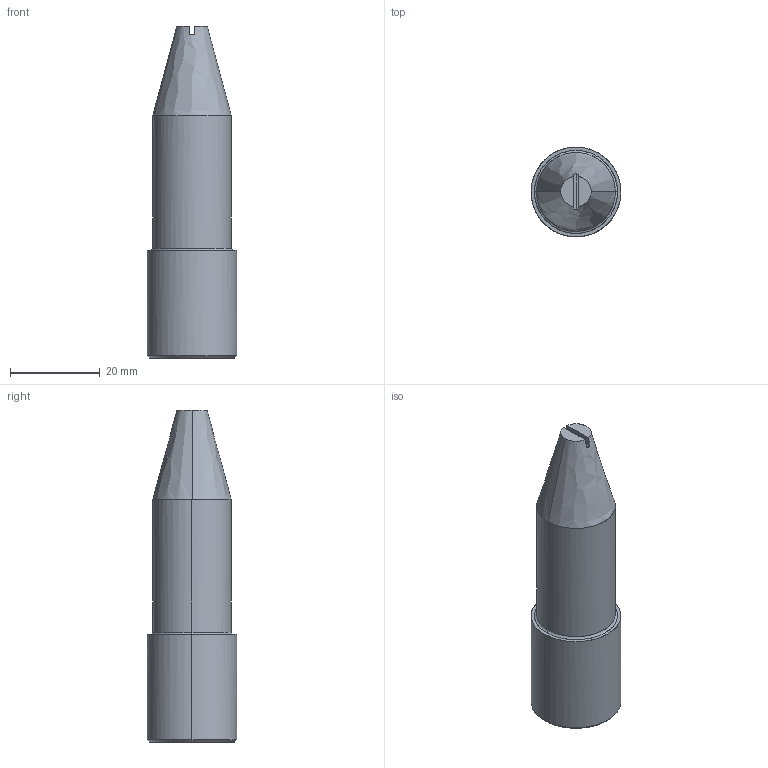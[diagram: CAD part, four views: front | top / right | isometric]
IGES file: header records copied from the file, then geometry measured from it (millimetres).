
Global section: file name: E:\UnigraphicsGraphicData\MISUMI_PRESS-PARTS\IGES\3d_sdsth20-p17.50-b30_02971_r00.igs; native system: NX V5.0; preprocessor: UGS NX IGES V5.0; author: MISUMI; date: 20110105.162518; units: millimetre
Bounding box: 20 x 20 x 74 mm (x, y, z)
Surface area: 4995.9 mm2 (no closed solid volume)
Topology: 0 solids, 0 shells, 21 faces, 124 edges, 124 vertices
Faces by surface type: bspline 21
